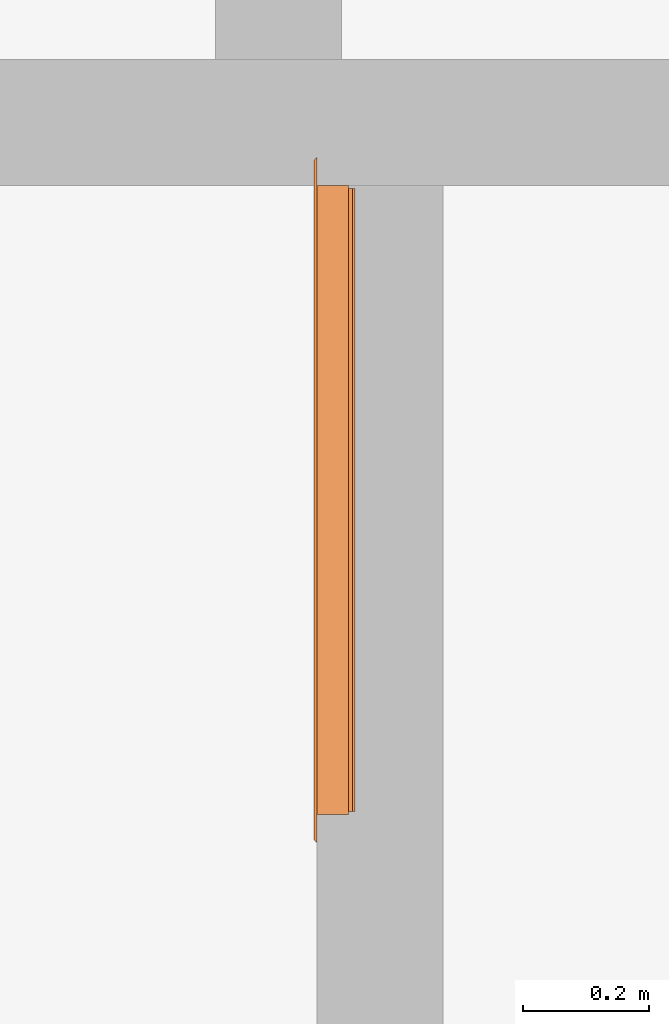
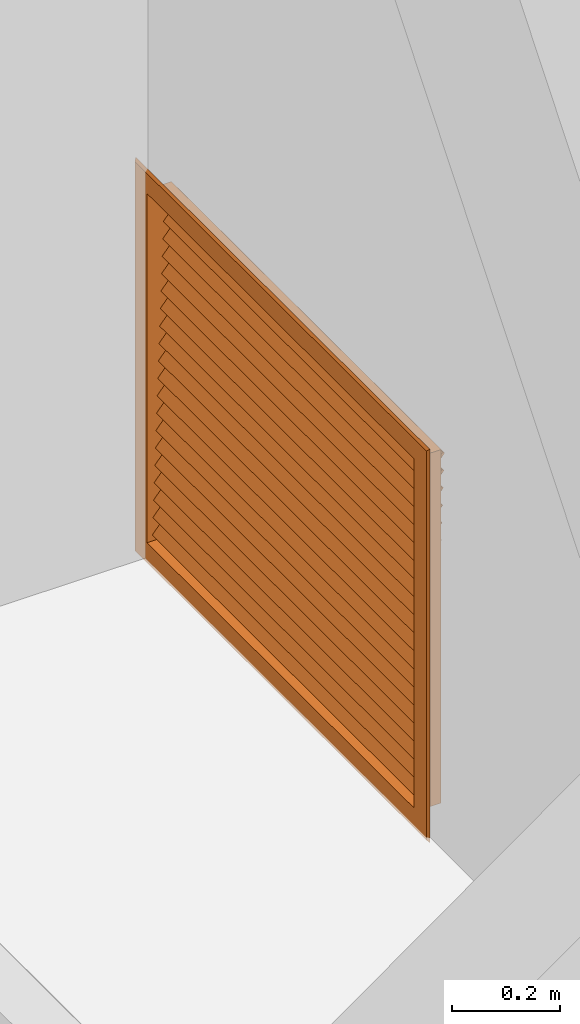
# One storey, part 136 of 137: 1 proxy.
"""IFC2X3 building model written with IfcOpenShell, lengths in centimetres."""

from ifc_helpers import new_model, entity, si_unit, converted_unit, derived_unit, direction, frame, origin, place, context, subcontext, project, spatial, faceted_brep, source, transform, mapped, material, type_object, type_shapes, element, save


model = new_model("IFC2X3")

# Units and contexts
model_context = context("Model", 3, precision=0.001, world=origin(), true_north=direction((6.12303176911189e-17, 1.0)))
body_context = subcontext(model_context, "Body", "Model", "MODEL_VIEW")
ifc_project = project(units=[si_unit("LENGTHUNIT", "METRE", prefix="CENTI"), si_unit("AREAUNIT", "SQUARE_METRE"), si_unit("VOLUMEUNIT", "CUBIC_METRE"), converted_unit("PLANEANGLEUNIT", "DEGREE", entity("IfcRatioMeasure", 0.0174532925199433), si_unit("PLANEANGLEUNIT", "RADIAN"), dimensions=[0, 0, 0, 0, 0, 0, 0]), si_unit("MASSUNIT", "GRAM", prefix="KILO"), si_unit("TIMEUNIT", "SECOND"), si_unit("FREQUENCYUNIT", "HERTZ"), si_unit("THERMODYNAMICTEMPERATUREUNIT", "DEGREE_CELSIUS"), derived_unit("THERMALTRANSMITTANCEUNIT", [(si_unit("MASSUNIT", "GRAM", prefix="KILO"), 1), (si_unit("THERMODYNAMICTEMPERATUREUNIT", "KELVIN"), -1), (si_unit("TIMEUNIT", "SECOND"), -3)]), derived_unit("VOLUMETRICFLOWRATEUNIT", [(si_unit("LENGTHUNIT", "METRE"), 3), (si_unit("TIMEUNIT", "SECOND"), -1)]), si_unit("ELECTRICCURRENTUNIT", "AMPERE"), si_unit("ELECTRICVOLTAGEUNIT", "VOLT"), si_unit("POWERUNIT", "WATT"), si_unit("FORCEUNIT", "NEWTON", prefix="KILO"), si_unit("ILLUMINANCEUNIT", "LUX"), si_unit("LUMINOUSFLUXUNIT", "LUMEN"), si_unit("LUMINOUSINTENSITYUNIT", "CANDELA"), derived_unit("USERDEFINED", [(si_unit("MASSUNIT", "GRAM", prefix="KILO"), -1), (si_unit("LENGTHUNIT", "METRE"), -2), (si_unit("TIMEUNIT", "SECOND"), 3), (si_unit("LUMINOUSFLUXUNIT", "LUMEN"), 1)]), derived_unit("LINEARVELOCITYUNIT", [(si_unit("LENGTHUNIT", "METRE"), 1), (si_unit("TIMEUNIT", "SECOND"), -1)]), si_unit("PRESSUREUNIT", "PASCAL"), derived_unit("USERDEFINED", [(si_unit("LENGTHUNIT", "METRE"), -2), (si_unit("MASSUNIT", "GRAM", prefix="KILO"), 1), (si_unit("TIMEUNIT", "SECOND"), -2)])], contexts=[model_context])

# Site, building, storey
site_placement = place(None, frame((8.62739174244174, -249.285249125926, 0.0)))
site = spatial("IfcSite", under=ifc_project, at=site_placement, Name="Default", CompositionType="ELEMENT")
building_placement = place(site_placement, origin())
building = spatial("IfcBuilding", under=site, at=building_placement, CompositionType="ELEMENT")
storey_placement = place(building_placement, origin())
storey = spatial("IfcBuildingStorey", under=building, at=storey_placement, Name="RDC", CompositionType="ELEMENT", Elevation=-8.82465566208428e-11)

# Proxy
ifc_material = material(Name="Acier - Galvanisé")
building_element_proxy_type = type_object("IfcBuildingElementProxyType", Name="1700 x 800 mm", PredefinedType="NOTDEFINED", material=ifc_material)
shared_shape = source(origin(), body_context, "Body", "Brep", [
    faceted_brep([(104.011775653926, 2.36842105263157, 12.9706902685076), (104.011775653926, 4.93957149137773, 9.9065124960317), (104.011775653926, 5.32259371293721, 10.227906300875), (104.011775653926, 2.75144327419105, 13.2920840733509), (5.01177565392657, 2.36842105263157, 12.9706902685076), (5.01177565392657, 2.75144327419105, 13.2920840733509), (5.01177565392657, 5.32259371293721, 10.227906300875), (5.01177565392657, 4.93957149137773, 9.9065124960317)], [[[0, 1, 2, 3]], [[4, 5, 6, 7]], [[1, 0, 4, 7]], [[2, 1, 7, 6]], [[3, 2, 6, 5]], [[0, 3, 5, 4]]]),
    faceted_brep([(104.011775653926, 2.23684210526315, 16.8654271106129), (104.011775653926, 4.80799254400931, 13.801249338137), (104.011775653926, 5.19101476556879, 14.1226431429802), (104.011775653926, 2.61986432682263, 17.1868209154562), (5.01177565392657, 2.23684210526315, 16.8654271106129), (5.01177565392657, 2.61986432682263, 17.1868209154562), (5.01177565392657, 5.19101476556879, 14.1226431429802), (5.01177565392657, 4.80799254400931, 13.801249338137)], [[[0, 1, 2, 3]], [[4, 5, 6, 7]], [[1, 0, 4, 7]], [[2, 1, 7, 6]], [[3, 2, 6, 5]], [[0, 3, 5, 4]]]),
    faceted_brep([(104.011775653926, 2.10526315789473, 20.7601639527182), (104.011775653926, 4.67641359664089, 17.6959861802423), (104.011775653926, 5.05943581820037, 18.0173799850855), (104.011775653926, 2.48828537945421, 21.0815577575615), (5.01177565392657, 2.10526315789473, 20.7601639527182), (5.01177565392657, 2.48828537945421, 21.0815577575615), (5.01177565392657, 5.05943581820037, 18.0173799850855), (5.01177565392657, 4.67641359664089, 17.6959861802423)], [[[0, 1, 2, 3]], [[4, 5, 6, 7]], [[1, 0, 4, 7]], [[2, 1, 7, 6]], [[3, 2, 6, 5]], [[0, 3, 5, 4]]]),
    faceted_brep([(104.011775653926, 1.97368421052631, 24.6549007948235), (104.011775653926, 4.54483464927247, 21.5907230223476), (104.011775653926, 4.92785687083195, 21.9121168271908), (104.011775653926, 2.35670643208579, 24.9762945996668), (5.01177565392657, 1.97368421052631, 24.6549007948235), (5.01177565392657, 2.35670643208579, 24.9762945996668), (5.01177565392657, 4.92785687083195, 21.9121168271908), (5.01177565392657, 4.54483464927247, 21.5907230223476)], [[[0, 1, 2, 3]], [[4, 5, 6, 7]], [[1, 0, 4, 7]], [[2, 1, 7, 6]], [[3, 2, 6, 5]], [[0, 3, 5, 4]]]),
    faceted_brep([(104.011775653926, 1.84210526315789, 28.5496376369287), (104.011775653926, 4.41325570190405, 25.4854598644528), (104.011775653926, 4.79627792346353, 25.8068536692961), (104.011775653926, 2.22512748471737, 28.871031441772), (5.01177565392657, 1.84210526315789, 28.5496376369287), (5.01177565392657, 2.22512748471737, 28.871031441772), (5.01177565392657, 4.79627792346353, 25.8068536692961), (5.01177565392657, 4.41325570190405, 25.4854598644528)], [[[0, 1, 2, 3]], [[4, 5, 6, 7]], [[1, 0, 4, 7]], [[2, 1, 7, 6]], [[3, 2, 6, 5]], [[0, 3, 5, 4]]]),
    faceted_brep([(104.011775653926, 1.71052631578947, 32.444374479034), (104.011775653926, 4.28167675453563, 29.3801967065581), (104.011775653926, 4.66469897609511, 29.7015905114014), (104.011775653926, 2.09354853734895, 32.7657682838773), (5.01177565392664, 1.71052631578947, 32.444374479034), (5.01177565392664, 2.09354853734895, 32.7657682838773), (5.01177565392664, 4.66469897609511, 29.7015905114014), (5.01177565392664, 4.28167675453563, 29.3801967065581)], [[[0, 1, 2, 3]], [[4, 5, 6, 7]], [[1, 0, 4, 7]], [[2, 1, 7, 6]], [[3, 2, 6, 5]], [[0, 3, 5, 4]]]),
    faceted_brep([(104.011775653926, 1.57894736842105, 36.3391113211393), (104.011775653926, 4.15009780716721, 33.2749335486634), (104.011775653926, 4.53312002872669, 33.5963273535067), (104.011775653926, 1.96196958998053, 36.6605051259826), (5.01177565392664, 1.57894736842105, 36.3391113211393), (5.01177565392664, 1.96196958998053, 36.6605051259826), (5.01177565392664, 4.53312002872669, 33.5963273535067), (5.01177565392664, 4.15009780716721, 33.2749335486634)], [[[0, 1, 2, 3]], [[4, 5, 6, 7]], [[1, 0, 4, 7]], [[2, 1, 7, 6]], [[3, 2, 6, 5]], [[0, 3, 5, 4]]]),
    faceted_brep([(104.011775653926, 1.44736842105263, 40.2338481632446), (104.011775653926, 4.01851885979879, 37.1696703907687), (104.011775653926, 4.40154108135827, 37.491064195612), (104.011775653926, 1.83039064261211, 40.5552419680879), (5.01177565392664, 1.44736842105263, 40.2338481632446), (5.01177565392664, 1.83039064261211, 40.5552419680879), (5.01177565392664, 4.40154108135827, 37.491064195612), (5.01177565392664, 4.01851885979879, 37.1696703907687)], [[[0, 1, 2, 3]], [[4, 5, 6, 7]], [[1, 0, 4, 7]], [[2, 1, 7, 6]], [[3, 2, 6, 5]], [[0, 3, 5, 4]]]),
    faceted_brep([(104.011775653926, 1.31578947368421, 44.1285850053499), (104.011775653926, 3.88693991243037, 41.064407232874), (104.011775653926, 4.26996213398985, 41.3858010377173), (104.011775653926, 1.69881169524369, 44.4499788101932), (5.01177565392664, 1.31578947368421, 44.1285850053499), (5.01177565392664, 1.69881169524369, 44.4499788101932), (5.01177565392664, 4.26996213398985, 41.3858010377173), (5.01177565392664, 3.88693991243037, 41.064407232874)], [[[0, 1, 2, 3]], [[4, 5, 6, 7]], [[1, 0, 4, 7]], [[2, 1, 7, 6]], [[3, 2, 6, 5]], [[0, 3, 5, 4]]]),
    faceted_brep([(104.011775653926, 1.18421052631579, 48.0233218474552), (104.011775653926, 3.75536096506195, 44.9591440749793), (104.011775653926, 4.13838318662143, 45.2805378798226), (104.011775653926, 1.56723274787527, 48.3447156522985), (5.01177565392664, 1.18421052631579, 48.0233218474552), (5.01177565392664, 1.56723274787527, 48.3447156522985), (5.01177565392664, 4.13838318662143, 45.2805378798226), (5.01177565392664, 3.75536096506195, 44.9591440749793)], [[[0, 1, 2, 3]], [[4, 5, 6, 7]], [[1, 0, 4, 7]], [[2, 1, 7, 6]], [[3, 2, 6, 5]], [[0, 3, 5, 4]]]),
    faceted_brep([(104.011775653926, 1.05263157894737, 51.9180586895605), (104.011775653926, 3.62378201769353, 48.8538809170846), (104.011775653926, 4.006804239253, 49.1752747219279), (104.011775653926, 1.43565380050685, 52.2394524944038), (5.01177565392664, 1.05263157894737, 51.9180586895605), (5.01177565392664, 1.43565380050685, 52.2394524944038), (5.01177565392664, 4.006804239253, 49.1752747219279), (5.01177565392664, 3.62378201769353, 48.8538809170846)], [[[0, 1, 2, 3]], [[4, 5, 6, 7]], [[1, 0, 4, 7]], [[2, 1, 7, 6]], [[3, 2, 6, 5]], [[0, 3, 5, 4]]]),
    faceted_brep([(104.011775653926, 0.921052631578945, 55.8127955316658), (104.011775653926, 3.4922030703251, 52.7486177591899), (104.011775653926, 3.87522529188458, 53.0700115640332), (104.011775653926, 1.30407485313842, 56.134189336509), (5.01177565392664, 0.921052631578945, 55.8127955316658), (5.01177565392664, 1.30407485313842, 56.134189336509), (5.01177565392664, 3.87522529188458, 53.0700115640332), (5.01177565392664, 3.4922030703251, 52.7486177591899)], [[[0, 1, 2, 3]], [[4, 5, 6, 7]], [[1, 0, 4, 7]], [[2, 1, 7, 6]], [[3, 2, 6, 5]], [[0, 3, 5, 4]]]),
    faceted_brep([(104.011775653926, 0.789473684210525, 59.707532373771), (104.011775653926, 3.36062412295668, 56.6433546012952), (104.011775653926, 3.74364634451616, 56.9647484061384), (104.011775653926, 1.17249590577, 60.0289261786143), (5.01177565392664, 0.789473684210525, 59.707532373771), (5.01177565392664, 1.17249590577, 60.0289261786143), (5.01177565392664, 3.74364634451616, 56.9647484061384), (5.01177565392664, 3.36062412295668, 56.6433546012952)], [[[0, 1, 2, 3]], [[4, 5, 6, 7]], [[1, 0, 4, 7]], [[2, 1, 7, 6]], [[3, 2, 6, 5]], [[0, 3, 5, 4]]]),
    faceted_brep([(104.011775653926, 0.657894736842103, 63.6022692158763), (104.011775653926, 3.22904517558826, 60.5380914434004), (104.011775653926, 3.61206739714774, 60.8594852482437), (104.011775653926, 1.04091695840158, 63.9236630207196), (5.01177565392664, 0.657894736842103, 63.6022692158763), (5.01177565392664, 1.04091695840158, 63.9236630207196), (5.01177565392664, 3.61206739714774, 60.8594852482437), (5.01177565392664, 3.22904517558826, 60.5380914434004)], [[[0, 1, 2, 3]], [[4, 5, 6, 7]], [[1, 0, 4, 7]], [[2, 1, 7, 6]], [[3, 2, 6, 5]], [[0, 3, 5, 4]]]),
    faceted_brep([(104.011775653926, 0.526315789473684, 67.4970060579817), (104.011775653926, 3.09746622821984, 64.4328282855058), (104.011775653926, 3.48048844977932, 64.7542220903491), (104.011775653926, 0.909338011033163, 67.818399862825), (5.01177565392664, 0.526315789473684, 67.4970060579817), (5.01177565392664, 0.909338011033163, 67.818399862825), (5.01177565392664, 3.48048844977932, 64.7542220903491), (5.01177565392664, 3.09746622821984, 64.4328282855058)], [[[0, 1, 2, 3]], [[4, 5, 6, 7]], [[1, 0, 4, 7]], [[2, 1, 7, 6]], [[3, 2, 6, 5]], [[0, 3, 5, 4]]]),
    faceted_brep([(104.011775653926, 0.394736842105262, 71.391742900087), (104.011775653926, 2.96588728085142, 68.3275651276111), (104.011775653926, 3.3489095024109, 68.6489589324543), (104.011775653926, 0.777759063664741, 71.7131367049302), (5.01177565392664, 0.394736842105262, 71.391742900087), (5.01177565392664, 0.777759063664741, 71.7131367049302), (5.01177565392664, 3.3489095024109, 68.6489589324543), (5.01177565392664, 2.96588728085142, 68.3275651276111)], [[[0, 1, 2, 3]], [[4, 5, 6, 7]], [[1, 0, 4, 7]], [[2, 1, 7, 6]], [[3, 2, 6, 5]], [[0, 3, 5, 4]]]),
    faceted_brep([(104.011775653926, 0.263157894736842, 75.2864797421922), (104.011775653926, 2.834308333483, 72.2223019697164), (104.011775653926, 3.21733055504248, 72.5436957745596), (104.011775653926, 0.646180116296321, 75.6078735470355), (5.01177565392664, 0.263157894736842, 75.2864797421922), (5.01177565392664, 0.646180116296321, 75.6078735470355), (5.01177565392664, 3.21733055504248, 72.5436957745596), (5.01177565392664, 2.834308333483, 72.2223019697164)], [[[0, 1, 2, 3]], [[4, 5, 6, 7]], [[1, 0, 4, 7]], [[2, 1, 7, 6]], [[3, 2, 6, 5]], [[0, 3, 5, 4]]]),
    faceted_brep([(104.011775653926, 0.131578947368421, 79.1812165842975), (104.011775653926, 2.70272938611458, 76.1170388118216), (104.011775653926, 3.08575160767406, 76.4384326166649), (104.011775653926, 0.5146011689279, 79.5026103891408), (5.01177565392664, 0.131578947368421, 79.1812165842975), (5.01177565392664, 0.5146011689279, 79.5026103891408), (5.01177565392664, 3.08575160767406, 76.4384326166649), (5.01177565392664, 2.70272938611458, 76.1170388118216)], [[[0, 1, 2, 3]], [[4, 5, 6, 7]], [[1, 0, 4, 7]], [[2, 1, 7, 6]], [[3, 2, 6, 5]], [[0, 3, 5, 4]]]),
    faceted_brep([(104.011775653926, 2.49999999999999, 9.0759534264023), (104.011775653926, 5.07115043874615, 6.01177565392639), (104.011775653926, 5.45417266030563, 6.33316945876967), (104.011775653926, 2.88302222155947, 9.39734723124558), (5.01177565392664, 2.49999999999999, 9.0759534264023), (5.01177565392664, 2.88302222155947, 9.39734723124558), (5.01177565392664, 5.45417266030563, 6.33316945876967), (5.01177565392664, 5.07115043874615, 6.01177565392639)], [[[0, 1, 2, 3]], [[4, 5, 6, 7]], [[1, 0, 4, 7]], [[2, 1, 7, 6]], [[3, 2, 6, 5]], [[0, 3, 5, 4]]]),
    faceted_brep([(104.011775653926, 0.0, 83.0759534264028), (104.011775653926, 2.57115043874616, 80.0117756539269), (104.011775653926, 2.95417266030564, 80.3331694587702), (104.011775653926, 0.383022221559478, 83.3973472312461), (5.01177565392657, 0.0, 83.0759534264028), (5.01177565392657, 0.383022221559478, 83.3973472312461), (5.01177565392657, 2.95417266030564, 80.3331694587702), (5.01177565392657, 2.57115043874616, 80.0117756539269)], [[[0, 1, 2, 3]], [[4, 5, 6, 7]], [[1, 0, 4, 7]], [[2, 1, 7, 6]], [[3, 2, 6, 5]], [[0, 3, 5, 4]]]),
    faceted_brep([(4.51177565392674, 1.07115043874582, 84.5117756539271), (4.51177565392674, 6.07115043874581, 84.5117756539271), (4.51177565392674, 6.07115043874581, 4.51177565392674), (4.51177565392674, 1.07115043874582, 4.51177565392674), (5.01177565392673, 6.57115043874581, 84.0117756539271), (5.01177565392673, 1.07115043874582, 84.0117756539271), (5.01177565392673, 1.07115043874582, 5.01177565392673), (5.01177565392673, 6.57115043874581, 5.01177565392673), (0.0, 6.07115043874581, 89.0235513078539), (0.499999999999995, 6.57115043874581, 88.5235513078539), (0.499999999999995, 6.57115043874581, 0.499999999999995), (0.0, 6.07115043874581, 0.0), (104.511775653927, 6.07115043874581, 4.51177565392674), (104.511775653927, 1.07115043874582, 4.51177565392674), (104.011775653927, 1.07115043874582, 5.01177565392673), (104.011775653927, 6.57115043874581, 5.01177565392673), (108.523551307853, 6.57115043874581, 0.499999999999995), (109.023551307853, 6.07115043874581, 0.0), (104.511775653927, 6.07115043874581, 84.5117756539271), (104.511775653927, 1.07115043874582, 84.5117756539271), (104.011775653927, 1.07115043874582, 84.0117756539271), (104.011775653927, 6.57115043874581, 84.0117756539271), (108.523551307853, 6.57115043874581, 88.5235513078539), (109.023551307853, 6.07115043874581, 89.0235513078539)], [[[0, 1, 2, 3]], [[4, 5, 6, 7]], [[8, 9, 10, 11]], [[3, 2, 12, 13]], [[7, 6, 14, 15]], [[11, 10, 16, 17]], [[13, 12, 18, 19]], [[15, 14, 20, 21]], [[17, 16, 22, 23]], [[19, 18, 1, 0]], [[3, 13, 19, 0], [5, 20, 14, 6]], [[21, 20, 5, 4]], [[7, 15, 21, 4], [9, 22, 16, 10]], [[23, 22, 9, 8]], [[11, 17, 23, 8], [1, 18, 12, 2]]], outer=[[True], [True], [True], [True], [True], [True], [True], [True], [True], [True], [True, False], [True], [False, True], [True], [True, False]]),
])
type_shapes(building_element_proxy_type, [shared_shape])
proxy_placement = place(storey_placement, frame((943.07115042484, 3338.46842928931, -1.24272705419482), z_axis=(0.0, 0.0, 1.0), x_axis=(0.0, 1.0, 0.0)))
element("IfcBuildingElementProxy", 1, at=proxy_placement, inside=storey, type_object=building_element_proxy_type, material=ifc_material, Name="Grille d'aération-100x80:1700 x 800 mm", ObjectType="1700 x 800 mm", context=body_context, shape_type="MappedRepresentation", body=[
    mapped(shared_shape, transform((0.0, 0.0, 0.0), scale=1.0)),
])

save(model, "model.ifc")
